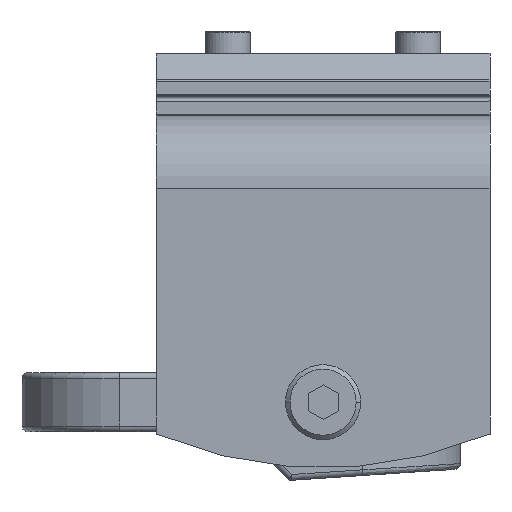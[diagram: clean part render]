
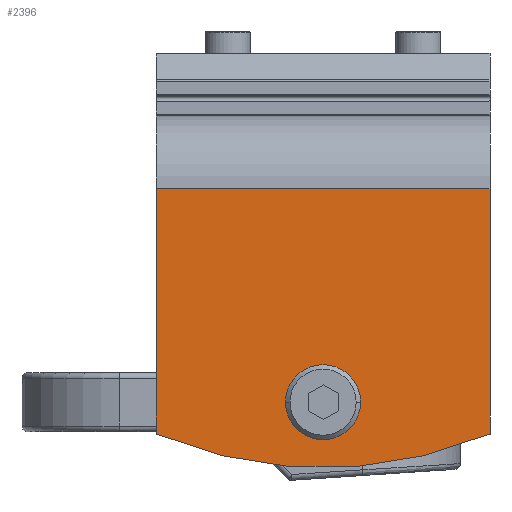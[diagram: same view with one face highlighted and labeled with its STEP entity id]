
A CAD part, front view. The second image highlights one B-rep face of the part: STEP entity #2396.
In plain terms, the highlighted planar face has unit normal (0, -1, 0).
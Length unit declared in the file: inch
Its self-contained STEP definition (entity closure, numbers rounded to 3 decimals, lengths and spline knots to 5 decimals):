
#673=DIRECTION('',(-1.,0.,0.));
#674=VECTOR('',#673,1.75);
#675=CARTESIAN_POINT('',(0.875,0.,-0.38));
#676=LINE('',#675,#674);
#677=DIRECTION('',(0.,0.,-1.));
#678=VECTOR('',#677,1.28689);
#679=CARTESIAN_POINT('',(-0.875,0.,-0.38));
#680=LINE('',#679,#678);
#681=DIRECTION('',(0.,0.,1.));
#682=VECTOR('',#681,1.28689);
#683=CARTESIAN_POINT('',(0.875,0.,-1.66689));
#684=LINE('',#683,#682);
#685=CARTESIAN_POINT('',(0.,0.,0.406));
#686=DIRECTION('',(0.,-1.,0.));
#687=DIRECTION('',(-0.389,0.,-0.921));
#688=AXIS2_PLACEMENT_3D('',#685,#686,#687);
#690=CARTESIAN_POINT('',(0.,0.,-1.5));
#691=DIRECTION('',(0.,-1.,0.));
#692=DIRECTION('',(-1.,0.,0.));
#693=AXIS2_PLACEMENT_3D('',#690,#691,#692);
#695=CARTESIAN_POINT('',(0.,0.,-1.5));
#696=DIRECTION('',(0.,-1.,0.));
#697=DIRECTION('',(1.,0.,0.));
#698=AXIS2_PLACEMENT_3D('',#695,#696,#697);
#1172=CARTESIAN_POINT('',(-0.875,0.,-1.66689));
#1174=VERTEX_POINT('',#1172);
#1178=CARTESIAN_POINT('',(-0.875,0.,-0.38));
#1180=VERTEX_POINT('',#1178);
#1183=CARTESIAN_POINT('',(0.875,0.,-1.66689));
#1184=VERTEX_POINT('',#1183);
#1185=CARTESIAN_POINT('',(0.875,0.,-0.38));
#1186=VERTEX_POINT('',#1185);
#1407=CARTESIAN_POINT('',(-0.19685,0.,-1.5));
#1408=CARTESIAN_POINT('',(0.19685,0.,-1.5));
#1409=VERTEX_POINT('',#1407);
#1410=VERTEX_POINT('',#1408);
#2378=CARTESIAN_POINT('',(0.,0.,-1.112));
#2379=DIRECTION('',(0.,1.,0.));
#2380=DIRECTION('',(1.,0.,0.));
#2381=AXIS2_PLACEMENT_3D('',#2378,#2379,#2380);
#2382=PLANE('',#2381);
#2383=ORIENTED_EDGE('',*,*,#1656,.F.);
#2384=ORIENTED_EDGE('',*,*,#2373,.F.);
#2385=ORIENTED_EDGE('',*,*,#1741,.F.);
#2387=ORIENTED_EDGE('',*,*,#2386,.F.);
#2388=EDGE_LOOP('',(#2383,#2384,#2385,#2387));
#2389=FACE_OUTER_BOUND('',#2388,.F.);
#2391=ORIENTED_EDGE('',*,*,#2390,.T.);
#2393=ORIENTED_EDGE('',*,*,#2392,.T.);
#2394=EDGE_LOOP('',(#2391,#2393));
#2395=FACE_BOUND('',#2394,.F.);
#689=CIRCLE('',#688,2.25);
#694=CIRCLE('',#693,0.19685);
#699=CIRCLE('',#698,0.19685);
#1656=EDGE_CURVE('',#1180,#1174,#680,.T.);
#1741=EDGE_CURVE('',#1184,#1186,#684,.T.);
#2373=EDGE_CURVE('',#1186,#1180,#676,.T.);
#2386=EDGE_CURVE('',#1174,#1184,#689,.T.);
#2390=EDGE_CURVE('',#1409,#1410,#694,.T.);
#2392=EDGE_CURVE('',#1410,#1409,#699,.T.);
#2396=ADVANCED_FACE('',(#2389,#2395),#2382,.F.);
